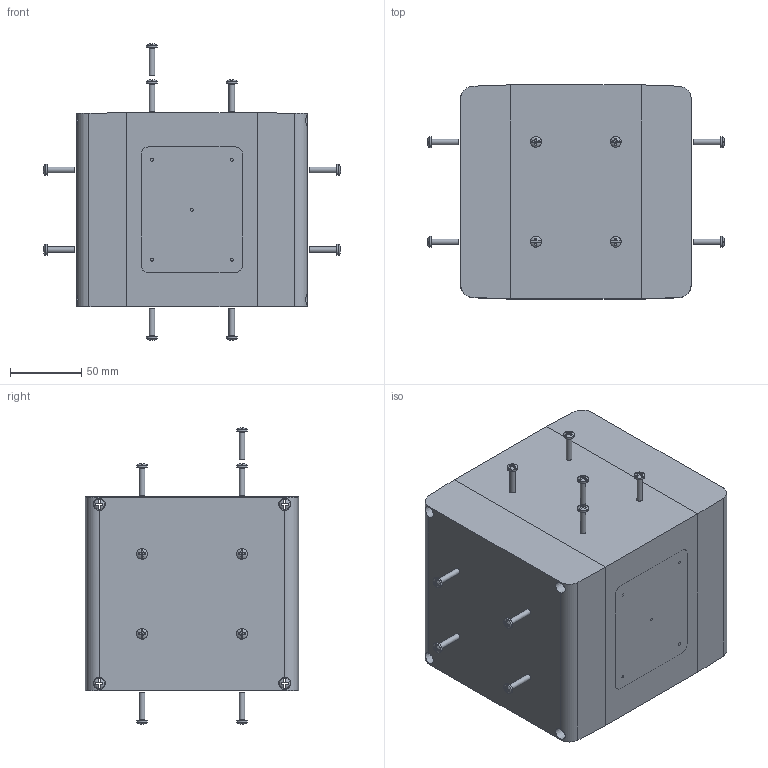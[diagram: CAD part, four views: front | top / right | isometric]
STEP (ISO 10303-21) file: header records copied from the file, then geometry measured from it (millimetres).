
FILE_DESCRIPTION(/* description */ (''),/* implementation_level */ '2;1');
FILE_NAME(/* name */ '4007375.stp',/* time_stamp */ '2016-10-24T08:49:31+02:00',/* author */ (''),/* organization */ (''),/* preprocessor_version */ 'ST-DEVELOPER v16',/* originating_system */ 'SIEMENS PLM Software NX 11.0',/* authorisation */ '');
FILE_SCHEMA (('AUTOMOTIVE_DESIGN { 1 0 10303 214 3 1 1 1 }'));
Length unit declared in the file: millimetre
Products named in the file (1): 4007375_LINKEDEXT_jt
Bounding box: 208.62 x 150 x 207.82 mm (x, y, z)
Surface area: 171839.7 mm2 (no closed solid volume)
Topology: 0 solids, 50 shells, 131 faces, 849 edges, 697 vertices
Faces by surface type: plane 55, cylinder 38, sphere 25, cone 13
Full cylindrical faces by diameter (mm): 4 x17, 7.6 x17
Entity records: 8908 total; most frequent: CARTESIAN_POINT 1886, DIRECTION 1330, ORIENTED_EDGE 885, EDGE_CURVE 751, VERTEX_POINT 676, AXIS2_PLACEMENT_3D 523, CIRCLE 383, LINE 284
